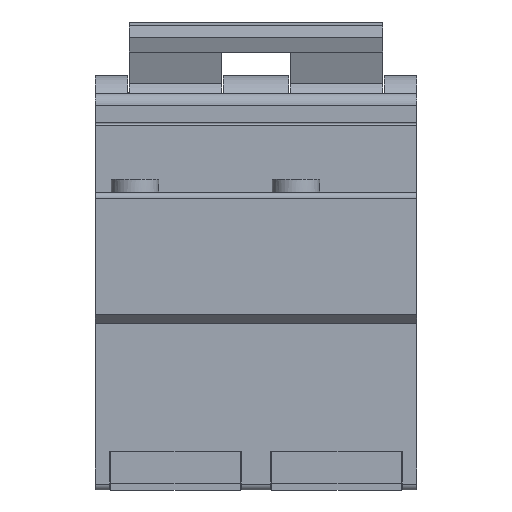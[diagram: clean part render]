
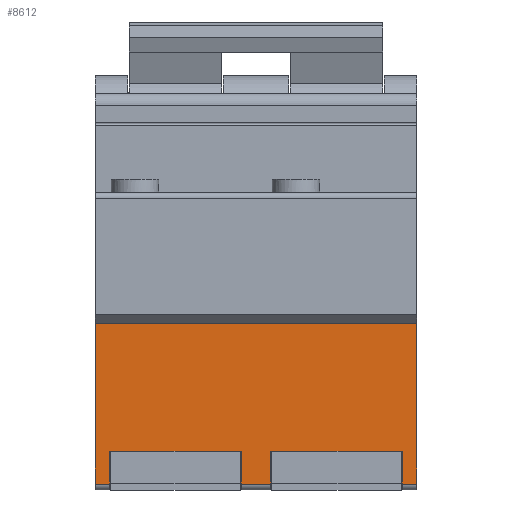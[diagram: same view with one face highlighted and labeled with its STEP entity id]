
A CAD part, front view. The second image highlights one B-rep face of the part: STEP entity #8612.
In plain terms, the highlighted planar face has unit normal (0, -1, 0).
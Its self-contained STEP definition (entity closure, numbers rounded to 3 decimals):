
#786=FACE_OUTER_BOUND('',#1347,.T.);
#1347=EDGE_LOOP('',(#6862,#6863,#6864,#6865,#6866,#6867,#6868,#6869,#6870,
#6871,#6872,#6873));
#1981=LINE('',#13623,#2829);
#1990=LINE('',#13661,#2838);
#1995=LINE('',#13674,#2843);
#2001=LINE('',#13686,#2849);
#2067=LINE('',#14272,#2915);
#2072=LINE('',#14285,#2920);
#2077=LINE('',#14296,#2925);
#2078=LINE('',#14297,#2926);
#2079=LINE('',#14298,#2927);
#2080=LINE('',#14300,#2928);
#2081=LINE('',#14302,#2929);
#2082=LINE('',#14303,#2930);
#2829=VECTOR('',#10165,10.);
#2838=VECTOR('',#10198,10.);
#2843=VECTOR('',#10207,10.);
#2849=VECTOR('',#10217,10.);
#2915=VECTOR('',#10593,10.);
#2920=VECTOR('',#10602,10.);
#2925=VECTOR('',#10611,10.);
#2926=VECTOR('',#10612,10.);
#2927=VECTOR('',#10613,10.);
#2928=VECTOR('',#10614,10.);
#2929=VECTOR('',#10615,10.);
#2930=VECTOR('',#10616,10.);
#3854=VERTEX_POINT('',#13620);
#3855=VERTEX_POINT('',#13622);
#3871=VERTEX_POINT('',#13659);
#3872=VERTEX_POINT('',#13660);
#3877=VERTEX_POINT('',#13672);
#3878=VERTEX_POINT('',#13673);
#3994=VERTEX_POINT('',#14270);
#3995=VERTEX_POINT('',#14271);
#4000=VERTEX_POINT('',#14283);
#4001=VERTEX_POINT('',#14284);
#4006=VERTEX_POINT('',#14299);
#4007=VERTEX_POINT('',#14301);
#4835=EDGE_CURVE('',#3854,#3855,#1981,.T.);
#4852=EDGE_CURVE('',#3871,#3872,#1990,.T.);
#4858=EDGE_CURVE('',#3877,#3878,#1995,.T.);
#4865=EDGE_CURVE('',#3872,#3855,#2001,.T.);
#5028=EDGE_CURVE('',#3994,#3995,#2067,.T.);
#5034=EDGE_CURVE('',#4000,#4001,#2072,.T.);
#5040=EDGE_CURVE('',#4001,#3994,#2077,.T.);
#5041=EDGE_CURVE('',#3995,#3877,#2078,.T.);
#5042=EDGE_CURVE('',#3878,#3871,#2079,.T.);
#5043=EDGE_CURVE('',#4006,#3854,#2080,.T.);
#5044=EDGE_CURVE('',#4006,#4007,#2081,.T.);
#5045=EDGE_CURVE('',#4007,#4000,#2082,.T.);
#6862=ORIENTED_EDGE('',*,*,#5034,.T.);
#6863=ORIENTED_EDGE('',*,*,#5040,.T.);
#6864=ORIENTED_EDGE('',*,*,#5028,.T.);
#6865=ORIENTED_EDGE('',*,*,#5041,.T.);
#6866=ORIENTED_EDGE('',*,*,#4858,.T.);
#6867=ORIENTED_EDGE('',*,*,#5042,.T.);
#6868=ORIENTED_EDGE('',*,*,#4852,.T.);
#6869=ORIENTED_EDGE('',*,*,#4865,.T.);
#6870=ORIENTED_EDGE('',*,*,#4835,.F.);
#6871=ORIENTED_EDGE('',*,*,#5043,.F.);
#6872=ORIENTED_EDGE('',*,*,#5044,.T.);
#6873=ORIENTED_EDGE('',*,*,#5045,.T.);
#8168=PLANE('',#9185);
#8612=ADVANCED_FACE('',(#786),#8168,.T.);
#9185=AXIS2_PLACEMENT_3D('',#14295,#10609,#10610);
#10165=DIRECTION('',(0.,0.,-1.));
#10198=DIRECTION('',(0.,0.,-1.));
#10207=DIRECTION('',(0.,0.,1.));
#10217=DIRECTION('',(1.,0.,0.));
#10593=DIRECTION('',(0.,0.,-1.));
#10602=DIRECTION('',(0.,0.,1.));
#10609=DIRECTION('center_axis',(0.,-1.,0.));
#10610=DIRECTION('ref_axis',(0.,0.,-1.));
#10611=DIRECTION('',(1.,0.,0.));
#10612=DIRECTION('',(1.,0.,0.));
#10613=DIRECTION('',(1.,0.,0.));
#10614=DIRECTION('',(1.,0.,0.));
#10615=DIRECTION('',(0.,0.,-1.));
#10616=DIRECTION('',(1.,0.,0.));
#13620=CARTESIAN_POINT('',(54.,-24.356,-37.778));
#13622=CARTESIAN_POINT('',(54.,-24.356,-64.693));
#13623=CARTESIAN_POINT('',(54.,-24.356,-37.778));
#13659=CARTESIAN_POINT('',(51.5,-24.356,-59.196));
#13660=CARTESIAN_POINT('',(51.5,-24.356,-64.693));
#13661=CARTESIAN_POINT('',(51.5,-24.356,-50.008));
#13672=CARTESIAN_POINT('',(29.5,-24.356,-64.693));
#13673=CARTESIAN_POINT('',(29.5,-24.356,-59.196));
#13674=CARTESIAN_POINT('',(29.5,-24.356,-50.008));
#13686=CARTESIAN_POINT('',(27.,-24.356,-64.693));
#14270=CARTESIAN_POINT('',(24.5,-24.356,-59.196));
#14271=CARTESIAN_POINT('',(24.5,-24.356,-64.693));
#14272=CARTESIAN_POINT('',(24.5,-24.356,-50.008));
#14283=CARTESIAN_POINT('',(2.5,-24.356,-64.693));
#14284=CARTESIAN_POINT('',(2.5,-24.356,-59.196));
#14285=CARTESIAN_POINT('',(2.5,-24.356,-50.008));
#14295=CARTESIAN_POINT('Origin',(0.,-24.356,-37.778));
#14296=CARTESIAN_POINT('',(6.75,-24.356,-59.196));
#14297=CARTESIAN_POINT('',(0.,-24.356,-64.693));
#14298=CARTESIAN_POINT('',(33.75,-24.356,-59.196));
#14299=CARTESIAN_POINT('',(0.,-24.356,-37.778));
#14300=CARTESIAN_POINT('',(0.,-24.356,-37.778));
#14301=CARTESIAN_POINT('',(0.,-24.356,-64.693));
#14302=CARTESIAN_POINT('',(0.,-24.356,-37.778));
#14303=CARTESIAN_POINT('',(0.,-24.356,-64.693));
